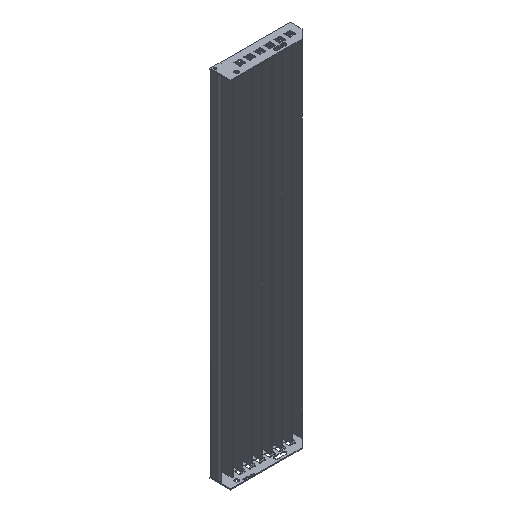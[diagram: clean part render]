
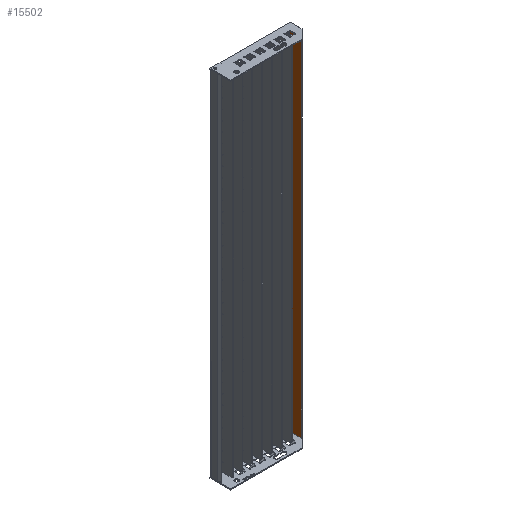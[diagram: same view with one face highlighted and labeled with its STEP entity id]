
A CAD part, isometric view. The second image highlights one B-rep face of the part: STEP entity #15502.
In plain terms, the highlighted planar face has unit normal (-1, 0, 0).
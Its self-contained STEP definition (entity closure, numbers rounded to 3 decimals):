
#2505=FACE_OUTER_BOUND('',#3780,.T.);
#3780=EDGE_LOOP('',(#14023,#14024,#14025,#14026));
#5170=LINE('',#30002,#6566);
#5171=LINE('',#30004,#6567);
#5172=LINE('',#30006,#6568);
#5173=LINE('',#30007,#6569);
#6566=VECTOR('',#21355,10.);
#6567=VECTOR('',#21356,10.);
#6568=VECTOR('',#21357,10.);
#6569=VECTOR('',#21358,10.);
#7991=VERTEX_POINT('',#30000);
#7992=VERTEX_POINT('',#30001);
#7993=VERTEX_POINT('',#30003);
#7994=VERTEX_POINT('',#30005);
#10003=EDGE_CURVE('',#7991,#7992,#5170,.T.);
#10004=EDGE_CURVE('',#7993,#7992,#5171,.T.);
#10005=EDGE_CURVE('',#7993,#7994,#5172,.T.);
#10006=EDGE_CURVE('',#7994,#7991,#5173,.T.);
#14023=ORIENTED_EDGE('',*,*,#10003,.T.);
#14024=ORIENTED_EDGE('',*,*,#10004,.F.);
#14025=ORIENTED_EDGE('',*,*,#10005,.T.);
#14026=ORIENTED_EDGE('',*,*,#10006,.T.);
#14509=PLANE('',#17101);
#15502=ADVANCED_FACE('',(#2505),#14509,.T.);
#17101=AXIS2_PLACEMENT_3D('',#29999,#21353,#21354);
#21353=DIRECTION('center_axis',(-1.,0.,0.));
#21354=DIRECTION('ref_axis',(0.,0.,1.));
#21355=DIRECTION('',(0.,0.,-1.));
#21356=DIRECTION('',(0.,1.,0.));
#21357=DIRECTION('',(0.,0.,1.));
#21358=DIRECTION('',(0.,1.,0.));
#29999=CARTESIAN_POINT('Origin',(-3.,0.,0.));
#30000=CARTESIAN_POINT('',(-3.,1194.,0.));
#30001=CARTESIAN_POINT('',(-3.,1194.,-40.));
#30002=CARTESIAN_POINT('',(-3.,1194.,-40.));
#30003=CARTESIAN_POINT('',(-3.,0.,-40.));
#30004=CARTESIAN_POINT('',(-3.,0.,-40.));
#30005=CARTESIAN_POINT('',(-3.,0.,0.));
#30006=CARTESIAN_POINT('',(-3.,0.,-40.));
#30007=CARTESIAN_POINT('',(-3.,0.,0.));
